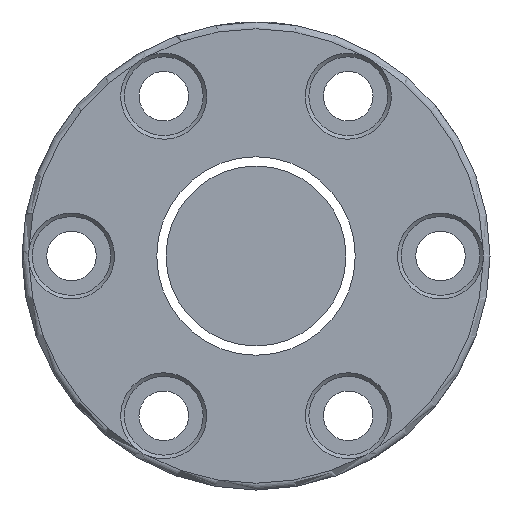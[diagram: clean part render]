
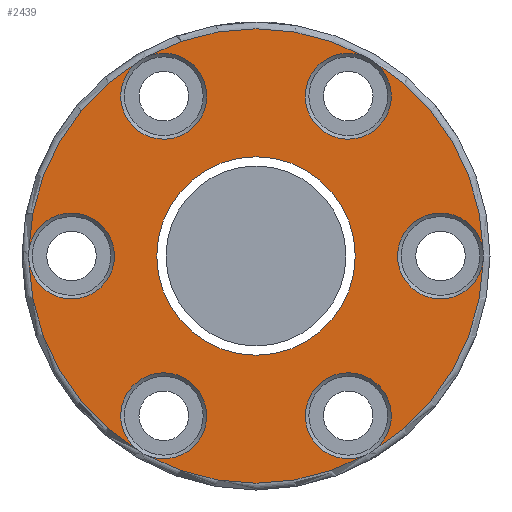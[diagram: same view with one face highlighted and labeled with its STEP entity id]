
A CAD part, left-side view. The second image highlights one B-rep face of the part: STEP entity #2439.
In plain terms, the highlighted planar face has unit normal (-1, 0, 0).
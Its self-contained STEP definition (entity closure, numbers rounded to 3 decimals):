
#107 = DIRECTION ( 'NONE',  ( -1., 0., 0. ) ) ;
#146 = VERTEX_POINT ( 'NONE', #1418 ) ;
#205 = DIRECTION ( 'NONE',  ( 1., 0., 0. ) ) ;
#300 = CARTESIAN_POINT ( 'NONE',  ( -88., 0., 0. ) ) ;
#318 = CARTESIAN_POINT ( 'NONE',  ( -88., -41., 0. ) ) ;
#330 = AXIS2_PLACEMENT_3D ( 'NONE', #1574, #2966, #2507 ) ;
#369 = DIRECTION ( 'NONE',  ( -1., 0., 0. ) ) ;
#396 = ORIENTED_EDGE ( 'NONE', *, *, #1649, .T. ) ;
#401 = ORIENTED_EDGE ( 'NONE', *, *, #1633, .T. ) ;
#423 = EDGE_CURVE ( 'NONE', #1899, #2609, #2855, .T. ) ;
#442 = CARTESIAN_POINT ( 'NONE',  ( -88., -24.306, -44.266 ) ) ;
#447 = VERTEX_POINT ( 'NONE', #2704 ) ;
#449 = DIRECTION ( 'NONE',  ( 0., -1., 0. ) ) ;
#463 = CIRCLE ( 'NONE', #2072, 9.55 ) ;
#476 = EDGE_CURVE ( 'NONE', #1246, #2475, #1239, .T. ) ;
#488 = VERTEX_POINT ( 'NONE', #2954 ) ;
#525 = DIRECTION ( 'NONE',  ( 1., 0., 0. ) ) ;
#532 = ORIENTED_EDGE ( 'NONE', *, *, #1191, .T. ) ;
#539 = DIRECTION ( 'NONE',  ( 0., -1., 0. ) ) ;
#592 = DIRECTION ( 'NONE',  ( 0., -1., 0. ) ) ;
#597 = DIRECTION ( 'NONE',  ( 0., -1., 0. ) ) ;
#603 = EDGE_CURVE ( 'NONE', #610, #610, #1186, .T. ) ;
#610 = VERTEX_POINT ( 'NONE', #1588 ) ;
#630 = EDGE_LOOP ( 'NONE', ( #1230 ) ) ;
#652 = VERTEX_POINT ( 'NONE', #2781 ) ;
#667 = ORIENTED_EDGE ( 'NONE', *, *, #476, .T. ) ;
#687 = AXIS2_PLACEMENT_3D ( 'NONE', #1368, #2986, #1350 ) ;
#698 = DIRECTION ( 'NONE',  ( -1., 0., 0. ) ) ;
#705 = PLANE ( 'NONE',  #1823 ) ;
#709 = CARTESIAN_POINT ( 'NONE',  ( -88., 0., 0. ) ) ;
#715 = CIRCLE ( 'NONE', #3089, 50.5 ) ;
#738 = ORIENTED_EDGE ( 'NONE', *, *, #2824, .T. ) ;
#765 = AXIS2_PLACEMENT_3D ( 'NONE', #709, #698, #1211 ) ;
#770 = EDGE_LOOP ( 'NONE', ( #2082, #738, #1577, #2320, #667, #2400, #532, #1591, #1732, #401, #2301, #396 ) ) ;
#776 = CARTESIAN_POINT ( 'NONE',  ( -88., -20.5, -35.507 ) ) ;
#897 = CARTESIAN_POINT ( 'NONE',  ( -88., -50.488, 1.083 ) ) ;
#966 = CIRCLE ( 'NONE', #2983, 9.55 ) ;
#1026 = DIRECTION ( 'NONE',  ( 0., -1., 0. ) ) ;
#1039 = DIRECTION ( 'NONE',  ( 1., 0., 0. ) ) ;
#1050 = EDGE_CURVE ( 'NONE', #1414, #1658, #1848, .T. ) ;
#1083 = EDGE_CURVE ( 'NONE', #652, #1246, #2147, .T. ) ;
#1154 = CARTESIAN_POINT ( 'NONE',  ( -88., -26.182, 43.183 ) ) ;
#1186 = CIRCLE ( 'NONE', #687, 22.05 ) ;
#1191 = EDGE_CURVE ( 'NONE', #447, #488, #3060, .T. ) ;
#1211 = DIRECTION ( 'NONE',  ( 0., -1., 0. ) ) ;
#1230 = ORIENTED_EDGE ( 'NONE', *, *, #603, .T. ) ;
#1237 = CARTESIAN_POINT ( 'NONE',  ( -88., 20.5, 35.507 ) ) ;
#1239 = CIRCLE ( 'NONE', #2035, 9.55 ) ;
#1246 = VERTEX_POINT ( 'NONE', #2756 ) ;
#1268 = CIRCLE ( 'NONE', #2839, 50.5 ) ;
#1300 = EDGE_CURVE ( 'NONE', #488, #146, #2551, .T. ) ;
#1330 = VERTEX_POINT ( 'NONE', #2280 ) ;
#1350 = DIRECTION ( 'NONE',  ( 0., 1., 0. ) ) ;
#1367 = CARTESIAN_POINT ( 'NONE',  ( -88., -20.5, 35.507 ) ) ;
#1368 = CARTESIAN_POINT ( 'NONE',  ( -88., 0., 0. ) ) ;
#1414 = VERTEX_POINT ( 'NONE', #2975 ) ;
#1418 = CARTESIAN_POINT ( 'NONE',  ( -88., 26.182, -43.183 ) ) ;
#1446 = AXIS2_PLACEMENT_3D ( 'NONE', #300, #1746, #2042 ) ;
#1464 = EDGE_CURVE ( 'NONE', #2475, #447, #715, .T. ) ;
#1574 = CARTESIAN_POINT ( 'NONE',  ( -88., 0., 0. ) ) ;
#1577 = ORIENTED_EDGE ( 'NONE', *, *, #2078, .T. ) ;
#1588 = CARTESIAN_POINT ( 'NONE',  ( -88., 22.05, 0. ) ) ;
#1591 = ORIENTED_EDGE ( 'NONE', *, *, #1300, .T. ) ;
#1633 = EDGE_CURVE ( 'NONE', #1330, #1899, #2980, .T. ) ;
#1637 = FACE_BOUND ( 'NONE', #630, .T. ) ;
#1646 = DIRECTION ( 'NONE',  ( 0., -1., 0. ) ) ;
#1649 = EDGE_CURVE ( 'NONE', #2609, #1414, #1268, .T. ) ;
#1657 = CARTESIAN_POINT ( 'NONE',  ( -88., 0., 0. ) ) ;
#1658 = VERTEX_POINT ( 'NONE', #897 ) ;
#1673 = CIRCLE ( 'NONE', #2075, 50.5 ) ;
#1732 = ORIENTED_EDGE ( 'NONE', *, *, #2583, .T. ) ;
#1746 = DIRECTION ( 'NONE',  ( -1., 0., 0. ) ) ;
#1749 = VERTEX_POINT ( 'NONE', #1154 ) ;
#1804 = CARTESIAN_POINT ( 'NONE',  ( -88., 0., 0. ) ) ;
#1823 = AXIS2_PLACEMENT_3D ( 'NONE', #2617, #2139, #2154 ) ;
#1845 = AXIS2_PLACEMENT_3D ( 'NONE', #776, #525, #1026 ) ;
#1848 = CIRCLE ( 'NONE', #2804, 9.55 ) ;
#1899 = VERTEX_POINT ( 'NONE', #442 ) ;
#1909 = DIRECTION ( 'NONE',  ( -1., 0., 0. ) ) ;
#1979 = DIRECTION ( 'NONE',  ( 0., -1., 0. ) ) ;
#1988 = DIRECTION ( 'NONE',  ( 1., 0., 0. ) ) ;
#2024 = DIRECTION ( 'NONE',  ( 1., 0., 0. ) ) ;
#2035 = AXIS2_PLACEMENT_3D ( 'NONE', #1237, #1988, #539 ) ;
#2042 = DIRECTION ( 'NONE',  ( 0., -1., 0. ) ) ;
#2072 = AXIS2_PLACEMENT_3D ( 'NONE', #1367, #2327, #449 ) ;
#2075 = AXIS2_PLACEMENT_3D ( 'NONE', #1804, #369, #2585 ) ;
#2078 = EDGE_CURVE ( 'NONE', #1749, #652, #463, .T. ) ;
#2082 = ORIENTED_EDGE ( 'NONE', *, *, #1050, .T. ) ;
#2139 = DIRECTION ( 'NONE',  ( -1., 0., 0. ) ) ;
#2147 = CIRCLE ( 'NONE', #330, 50.5 ) ;
#2154 = DIRECTION ( 'NONE',  ( 0., -1., 0. ) ) ;
#2280 = CARTESIAN_POINT ( 'NONE',  ( -88., 24.306, -44.266 ) ) ;
#2301 = ORIENTED_EDGE ( 'NONE', *, *, #423, .T. ) ;
#2320 = ORIENTED_EDGE ( 'NONE', *, *, #1083, .T. ) ;
#2322 = CARTESIAN_POINT ( 'NONE',  ( -88., 41., 0. ) ) ;
#2327 = DIRECTION ( 'NONE',  ( 1., 0., 0. ) ) ;
#2358 = CARTESIAN_POINT ( 'NONE',  ( -88., 20.5, -35.507 ) ) ;
#2376 = CARTESIAN_POINT ( 'NONE',  ( -88., 26.182, 43.183 ) ) ;
#2400 = ORIENTED_EDGE ( 'NONE', *, *, #1464, .T. ) ;
#2439 = ADVANCED_FACE ( 'NONE', ( #2791, #1637 ), #705, .T. ) ;
#2448 = AXIS2_PLACEMENT_3D ( 'NONE', #2322, #2024, #592 ) ;
#2475 = VERTEX_POINT ( 'NONE', #2376 ) ;
#2502 = CARTESIAN_POINT ( 'NONE',  ( -88., 0., 0. ) ) ;
#2507 = DIRECTION ( 'NONE',  ( 0., -1., 0. ) ) ;
#2551 = CIRCLE ( 'NONE', #1446, 50.5 ) ;
#2583 = EDGE_CURVE ( 'NONE', #146, #1330, #966, .T. ) ;
#2585 = DIRECTION ( 'NONE',  ( 0., -1., 0. ) ) ;
#2609 = VERTEX_POINT ( 'NONE', #3097 ) ;
#2617 = CARTESIAN_POINT ( 'NONE',  ( -88., 52., 0. ) ) ;
#2622 = DIRECTION ( 'NONE',  ( 0., -1., 0. ) ) ;
#2704 = CARTESIAN_POINT ( 'NONE',  ( -88., 50.488, 1.083 ) ) ;
#2756 = CARTESIAN_POINT ( 'NONE',  ( -88., 24.306, 44.266 ) ) ;
#2781 = CARTESIAN_POINT ( 'NONE',  ( -88., -24.306, 44.266 ) ) ;
#2791 = FACE_OUTER_BOUND ( 'NONE', #770, .T. ) ;
#2804 = AXIS2_PLACEMENT_3D ( 'NONE', #318, #1039, #597 ) ;
#2824 = EDGE_CURVE ( 'NONE', #1658, #1749, #1673, .T. ) ;
#2839 = AXIS2_PLACEMENT_3D ( 'NONE', #1657, #1909, #2622 ) ;
#2855 = CIRCLE ( 'NONE', #1845, 9.55 ) ;
#2954 = CARTESIAN_POINT ( 'NONE',  ( -88., 50.488, -1.083 ) ) ;
#2966 = DIRECTION ( 'NONE',  ( -1., 0., 0. ) ) ;
#2975 = CARTESIAN_POINT ( 'NONE',  ( -88., -50.488, -1.083 ) ) ;
#2980 = CIRCLE ( 'NONE', #765, 50.5 ) ;
#2983 = AXIS2_PLACEMENT_3D ( 'NONE', #2358, #205, #1646 ) ;
#2986 = DIRECTION ( 'NONE',  ( 1., 0., 0. ) ) ;
#3060 = CIRCLE ( 'NONE', #2448, 9.55 ) ;
#3089 = AXIS2_PLACEMENT_3D ( 'NONE', #2502, #107, #1979 ) ;
#3097 = CARTESIAN_POINT ( 'NONE',  ( -88., -26.182, -43.183 ) ) ;
